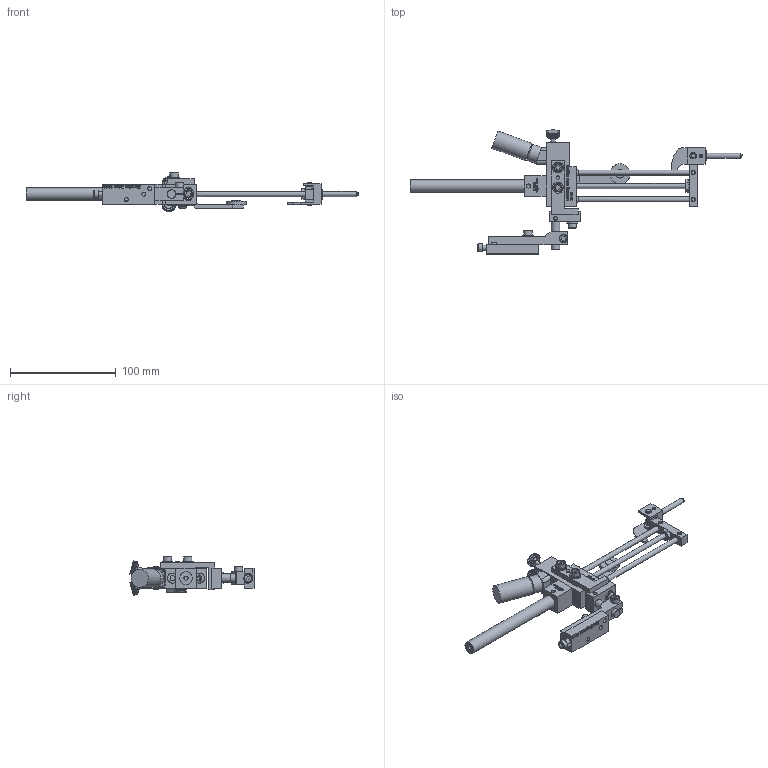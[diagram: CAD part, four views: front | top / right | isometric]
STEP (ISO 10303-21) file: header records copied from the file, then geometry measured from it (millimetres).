
FILE_DESCRIPTION((''),'2;1');
FILE_NAME('C:\Documents and Settings\Ron\My Documents\Inventor\Sprinter Drawing\Machines in Inventor\Model 44\Dot\1-eight\Ext Hd 1in\Brkt\Ext\Model 44 Ext HD 1in .125 dia dot Ext w brkt.stp','2009-01-19T15:03:27',('Ron'),(''),'Autodesk Inventor 2008','Autodesk Inventor 2008','');
FILE_SCHEMA(('AUTOMOTIVE_DESIGN { 1 0 10303 214 1 1 1 1 }'));
Length unit declared in the file: inch
Products named in the file (1): Model 44 Ext HD 1in .125 dia dot Ext w brkt
Bounding box: 313.49 x 117.12 x 36.82 mm (x, y, z)
Volume: 110276.3 mm3; surface area: 54719.3 mm2
Topology: 381 solids, 381 shells, 6206 faces, 15405 edges, 9527 vertices
Faces by surface type: plane 4359, bspline 1321, cylinder 471, cone 51, torus 4
Full cylindrical faces by diameter (mm): 3.112 x1, 3.175 x4, 3.302 x1, 3.962 x1, 4.064 x7, 4.166 x1, 4.699 x1, 4.75 x4, 4.775 x1, 4.826 x8, 5.08 x1, 5.156 x4, 5.207 x2, 5.41 x2, 6.096 x1, 6.299 x2, 7.239 x1, 7.62 x1, 7.925 x7, 7.938 x1, 8.128 x1, 9.017 x1, 9.398 x1, 9.525 x2, 10.312 x4, 10.922 x1, 11.036 x1, 11.938 x2, 14.478 x1, 16.256 x1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
Entity records: 197660 total; most frequent: CARTESIAN_POINT 54209, ORIENTED_EDGE 30354, DIRECTION 23592, EDGE_CURVE 15177, VECTOR 11364, LINE 11364, VERTEX_POINT 9460, EDGE_LOOP 6769
